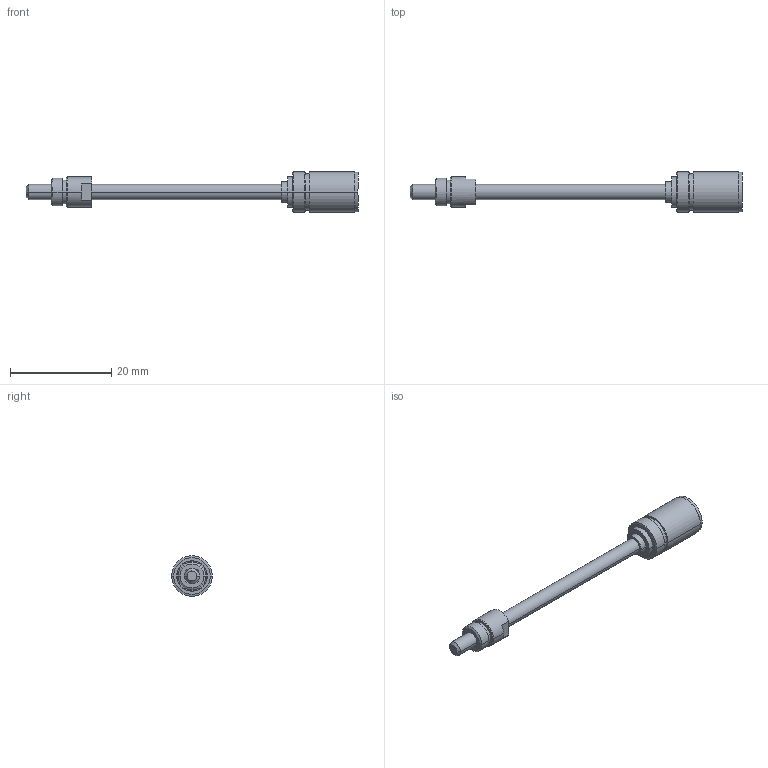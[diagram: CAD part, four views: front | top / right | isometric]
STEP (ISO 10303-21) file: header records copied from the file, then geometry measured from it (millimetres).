
FILE_DESCRIPTION((''),'2;1');
FILE_NAME('473644_GP8S-2ST','2016-10-05T',('mmagpetk'),(''),'CREO PARAMETRIC BY PTC INC, 2016050','CREO PARAMETRIC BY PTC INC, 2016050','');
FILE_SCHEMA(('CONFIG_CONTROL_DESIGN'));
Length unit declared in the file: millimetre
Products named in the file (1): 473644_GP8S-2ST
Bounding box: 65.6 x 8 x 8 mm (x, y, z)
Volume: 962.6 mm3; surface area: 1199.9 mm2
Topology: 1 solids, 1 shells, 61 faces, 124 edges, 76 vertices
Faces by surface type: cylinder 26, plane 17, cone 16, torus 2
Entity records: 2725 total; most frequent: DIRECTION 320, CARTESIAN_POINT 261, ORIENTED_EDGE 248, PRESENTATION_STYLE_ASSIGNMENT 177, AXIS2_PLACEMENT_3D 135, STYLED_ITEM 125, CURVE_STYLE 124, EDGE_CURVE 124
